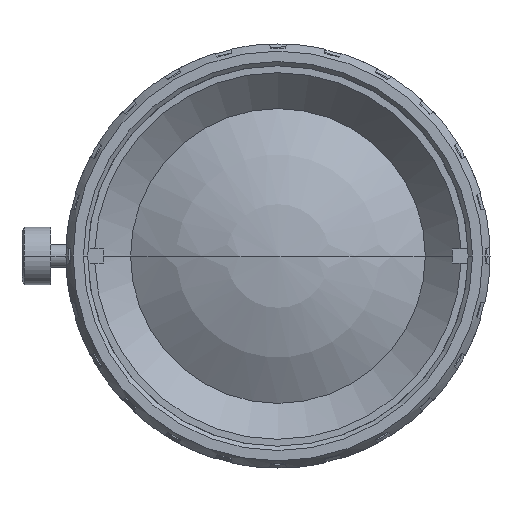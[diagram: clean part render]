
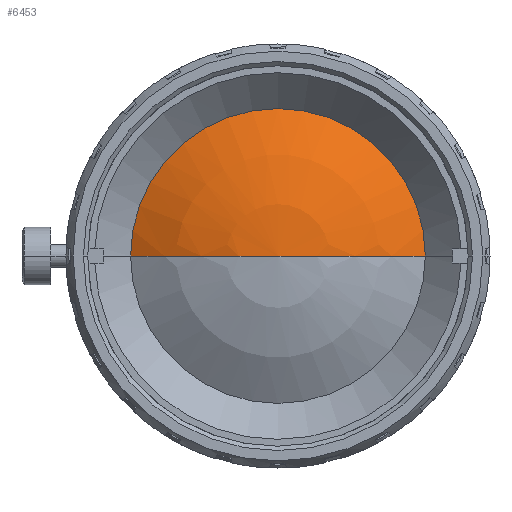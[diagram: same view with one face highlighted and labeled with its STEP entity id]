
A CAD part, left-side view. The second image highlights one B-rep face of the part: STEP entity #6453.
In plain terms, the highlighted spherical face has radius 18.248 mm.
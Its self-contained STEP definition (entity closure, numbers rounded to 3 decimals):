
#6244 = CYLINDRICAL_SURFACE('',#6245,10.25);
#6245 = AXIS2_PLACEMENT_3D('',#6246,#6247,#6248);
#6246 = CARTESIAN_POINT('',(-30.262,300.,0.));
#6247 = DIRECTION('',(-1.,0.,0.));
#6248 = DIRECTION('',(0.,1.,0.));
#6376 = VERTEX_POINT('',#6377);
#6377 = CARTESIAN_POINT('',(-30.112,289.75,0.));
#6403 = EDGE_CURVE('',#6376,#6404,#6406,.T.);
#6404 = VERTEX_POINT('',#6405);
#6405 = CARTESIAN_POINT('',(-30.112,310.25,0.));
#6406 = SURFACE_CURVE('',#6407,(#6412,#6419),.PCURVE_S1.);
#6407 = CIRCLE('',#6408,10.25);
#6408 = AXIS2_PLACEMENT_3D('',#6409,#6410,#6411);
#6409 = CARTESIAN_POINT('',(-30.112,300.,0.));
#6410 = DIRECTION('',(-1.,0.,0.));
#6411 = DIRECTION('',(0.,1.,0.));
#6412 = PCURVE('',#6244,#6413);
#6413 = DEFINITIONAL_REPRESENTATION('',(#6414),#6418);
#6414 = LINE('',#6415,#6416);
#6415 = CARTESIAN_POINT('',(0.,-0.15));
#6416 = VECTOR('',#6417,1.);
#6417 = DIRECTION('',(1.,0.));
#6418 = ( GEOMETRIC_REPRESENTATION_CONTEXT(2) 
PARAMETRIC_REPRESENTATION_CONTEXT() REPRESENTATION_CONTEXT('',''
  ) );
#6419 = PCURVE('',#6420,#6425);
#6420 = SPHERICAL_SURFACE('',#6421,18.248);
#6421 = AXIS2_PLACEMENT_3D('',#6422,#6423,#6424);
#6422 = CARTESIAN_POINT('',(-15.015,300.,0.));
#6423 = DIRECTION('',(-1.,0.,0.));
#6424 = DIRECTION('',(0.,1.,0.));
#6425 = DEFINITIONAL_REPRESENTATION('',(#6426),#6430);
#6426 = LINE('',#6427,#6428);
#6427 = CARTESIAN_POINT('',(0.,0.974));
#6428 = VECTOR('',#6429,1.);
#6429 = DIRECTION('',(1.,0.));
#6430 = ( GEOMETRIC_REPRESENTATION_CONTEXT(2) 
PARAMETRIC_REPRESENTATION_CONTEXT() REPRESENTATION_CONTEXT('',''
  ) );
#6453 = ADVANCED_FACE('',(#6454),#6420,.T.);
#6454 = FACE_BOUND('',#6455,.T.);
#6455 = EDGE_LOOP('',(#6456,#6457,#6530));
#6456 = ORIENTED_EDGE('',*,*,#6403,.T.);
#6457 = ORIENTED_EDGE('',*,*,#6458,.F.);
#6458 = EDGE_CURVE('',#6459,#6404,#6461,.T.);
#6459 = VERTEX_POINT('',#6460);
#6460 = CARTESIAN_POINT('',(-33.263,300.,0.));
#6461 = SURFACE_CURVE('',#6462,(#6467,#6496),.PCURVE_S1.);
#6462 = CIRCLE('',#6463,18.248);
#6463 = AXIS2_PLACEMENT_3D('',#6464,#6465,#6466);
#6464 = CARTESIAN_POINT('',(-15.015,300.,0.));
#6465 = DIRECTION('',(0.,0.,-1.));
#6466 = DIRECTION('',(1.,0.,0.));
#6467 = PCURVE('',#6420,#6468);
#6468 = DEFINITIONAL_REPRESENTATION('',(#6469),#6495);
#6469 = B_SPLINE_CURVE_WITH_KNOTS('',3,(#6470,#6471,#6472,#6473,#6474,
    #6475,#6476,#6477,#6478,#6479,#6480,#6481,#6482,#6483,#6484,#6485,
    #6486,#6487,#6488,#6489,#6490,#6491,#6492,#6493,#6494),
  .UNSPECIFIED.,.F.,.F.,(4,1,1,1,1,1,1,1,1,1,1,1,1,1,1,1,1,1,1,1,1,1,4),
  (3.142,3.169,3.196,3.223,
    3.25,3.277,3.304,3.331,
    3.358,3.386,3.413,3.44,
    3.467,3.494,3.521,3.548,
    3.575,3.602,3.63,3.657,
    3.684,3.711,3.738),
  .QUASI_UNIFORM_KNOTS.);
#6470 = CARTESIAN_POINT('',(6.283,1.571));
#6471 = CARTESIAN_POINT('',(6.283,1.562));
#6472 = CARTESIAN_POINT('',(6.283,1.544));
#6473 = CARTESIAN_POINT('',(6.283,1.517));
#6474 = CARTESIAN_POINT('',(6.283,1.489));
#6475 = CARTESIAN_POINT('',(6.283,1.462));
#6476 = CARTESIAN_POINT('',(6.283,1.435));
#6477 = CARTESIAN_POINT('',(6.283,1.408));
#6478 = CARTESIAN_POINT('',(6.283,1.381));
#6479 = CARTESIAN_POINT('',(6.283,1.354));
#6480 = CARTESIAN_POINT('',(6.283,1.327));
#6481 = CARTESIAN_POINT('',(6.283,1.3));
#6482 = CARTESIAN_POINT('',(6.283,1.273));
#6483 = CARTESIAN_POINT('',(6.283,1.245));
#6484 = CARTESIAN_POINT('',(6.283,1.218));
#6485 = CARTESIAN_POINT('',(6.283,1.191));
#6486 = CARTESIAN_POINT('',(6.283,1.164));
#6487 = CARTESIAN_POINT('',(6.283,1.137));
#6488 = CARTESIAN_POINT('',(6.283,1.11));
#6489 = CARTESIAN_POINT('',(6.283,1.083));
#6490 = CARTESIAN_POINT('',(6.283,1.056));
#6491 = CARTESIAN_POINT('',(6.283,1.029));
#6492 = CARTESIAN_POINT('',(6.283,1.001));
#6493 = CARTESIAN_POINT('',(6.283,0.983));
#6494 = CARTESIAN_POINT('',(6.283,0.974));
#6495 = ( GEOMETRIC_REPRESENTATION_CONTEXT(2) 
PARAMETRIC_REPRESENTATION_CONTEXT() REPRESENTATION_CONTEXT('',''
  ) );
#6496 = PCURVE('',#6497,#6502);
#6497 = SPHERICAL_SURFACE('',#6498,18.248);
#6498 = AXIS2_PLACEMENT_3D('',#6499,#6500,#6501);
#6499 = CARTESIAN_POINT('',(-15.015,300.,0.));
#6500 = DIRECTION('',(-1.,0.,0.));
#6501 = DIRECTION('',(0.,1.,0.));
#6502 = DEFINITIONAL_REPRESENTATION('',(#6503),#6529);
#6503 = B_SPLINE_CURVE_WITH_KNOTS('',3,(#6504,#6505,#6506,#6507,#6508,
    #6509,#6510,#6511,#6512,#6513,#6514,#6515,#6516,#6517,#6518,#6519,
    #6520,#6521,#6522,#6523,#6524,#6525,#6526,#6527,#6528),
  .UNSPECIFIED.,.F.,.F.,(4,1,1,1,1,1,1,1,1,1,1,1,1,1,1,1,1,1,1,1,1,1,4),
  (3.142,3.169,3.196,3.223,
    3.25,3.277,3.304,3.331,
    3.358,3.386,3.413,3.44,
    3.467,3.494,3.521,3.548,
    3.575,3.602,3.63,3.657,
    3.684,3.711,3.738),
  .QUASI_UNIFORM_KNOTS.);
#6504 = CARTESIAN_POINT('',(0.,1.571));
#6505 = CARTESIAN_POINT('',(0.,1.562));
#6506 = CARTESIAN_POINT('',(0.,1.544));
#6507 = CARTESIAN_POINT('',(0.,1.517));
#6508 = CARTESIAN_POINT('',(0.,1.489));
#6509 = CARTESIAN_POINT('',(0.,1.462));
#6510 = CARTESIAN_POINT('',(0.,1.435));
#6511 = CARTESIAN_POINT('',(0.,1.408));
#6512 = CARTESIAN_POINT('',(0.,1.381));
#6513 = CARTESIAN_POINT('',(0.,1.354));
#6514 = CARTESIAN_POINT('',(0.,1.327));
#6515 = CARTESIAN_POINT('',(0.,1.3));
#6516 = CARTESIAN_POINT('',(0.,1.273));
#6517 = CARTESIAN_POINT('',(0.,1.245));
#6518 = CARTESIAN_POINT('',(0.,1.218));
#6519 = CARTESIAN_POINT('',(0.,1.191));
#6520 = CARTESIAN_POINT('',(0.,1.164));
#6521 = CARTESIAN_POINT('',(0.,1.137));
#6522 = CARTESIAN_POINT('',(0.,1.11));
#6523 = CARTESIAN_POINT('',(0.,1.083));
#6524 = CARTESIAN_POINT('',(0.,1.056));
#6525 = CARTESIAN_POINT('',(0.,1.029));
#6526 = CARTESIAN_POINT('',(0.,1.001));
#6527 = CARTESIAN_POINT('',(0.,0.983));
#6528 = CARTESIAN_POINT('',(0.,0.974));
#6529 = ( GEOMETRIC_REPRESENTATION_CONTEXT(2) 
PARAMETRIC_REPRESENTATION_CONTEXT() REPRESENTATION_CONTEXT('',''
  ) );
#6530 = ORIENTED_EDGE('',*,*,#6531,.F.);
#6531 = EDGE_CURVE('',#6376,#6459,#6532,.T.);
#6532 = SURFACE_CURVE('',#6533,(#6538,#6545),.PCURVE_S1.);
#6533 = CIRCLE('',#6534,18.248);
#6534 = AXIS2_PLACEMENT_3D('',#6535,#6536,#6537);
#6535 = CARTESIAN_POINT('',(-15.015,300.,0.));
#6536 = DIRECTION('',(0.,0.,-1.));
#6537 = DIRECTION('',(1.,0.,0.));
#6538 = PCURVE('',#6420,#6539);
#6539 = DEFINITIONAL_REPRESENTATION('',(#6540),#6544);
#6540 = LINE('',#6541,#6542);
#6541 = CARTESIAN_POINT('',(3.142,-1.571));
#6542 = VECTOR('',#6543,1.);
#6543 = DIRECTION('',(0.,1.));
#6544 = ( GEOMETRIC_REPRESENTATION_CONTEXT(2) 
PARAMETRIC_REPRESENTATION_CONTEXT() REPRESENTATION_CONTEXT('',''
  ) );
#6545 = PCURVE('',#6497,#6546);
#6546 = DEFINITIONAL_REPRESENTATION('',(#6547),#6551);
#6547 = LINE('',#6548,#6549);
#6548 = CARTESIAN_POINT('',(3.142,-1.571));
#6549 = VECTOR('',#6550,1.);
#6550 = DIRECTION('',(0.,1.));
#6551 = ( GEOMETRIC_REPRESENTATION_CONTEXT(2) 
PARAMETRIC_REPRESENTATION_CONTEXT() REPRESENTATION_CONTEXT('',''
  ) );
